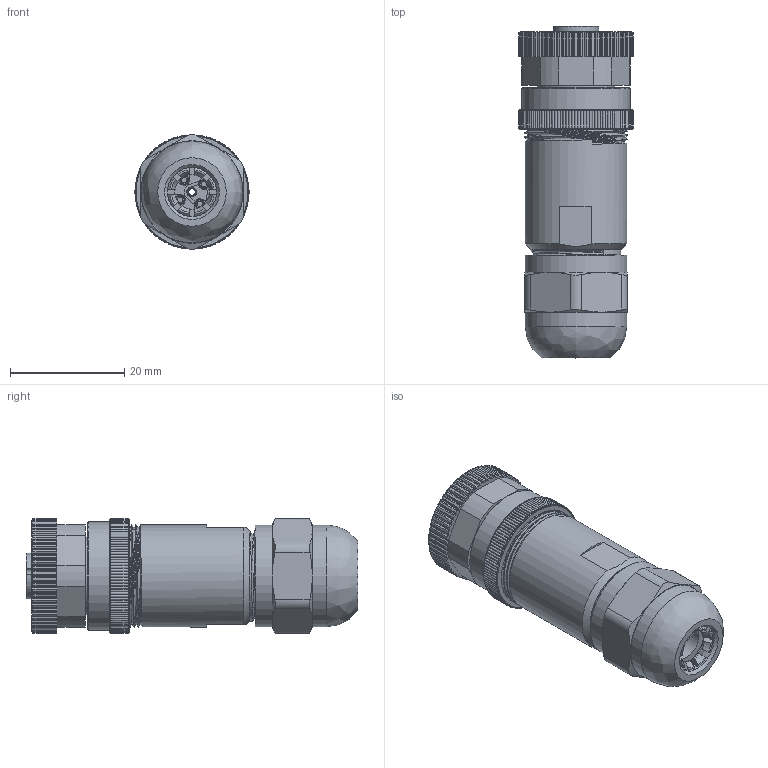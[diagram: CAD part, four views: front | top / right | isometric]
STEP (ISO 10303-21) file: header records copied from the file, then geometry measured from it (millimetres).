
FILE_DESCRIPTION(/* description */ (''),/* implementation_level */ '2;1');
FILE_NAME(/* name */ 'M12-4FS.P-PG7_stp.stp',/* time_stamp */ '2024-09-04T17:09:55+08:00',/* author */ (''),/* organization */ (''),/* preprocessor_version */ 'ST-DEVELOPER v16.7',/* originating_system */ 'SIEMENS PLM Software NX 12.0',/* authorisation */ '');
FILE_SCHEMA (('AUTOMOTIVE_DESIGN { 1 0 10303 214 3 1 1 1 }'));
Products named in the file (1): lyj7CECB1C4a6ox
Bounding box: 20 x 58.2 x 20.16 mm (x, y, z)
Volume: 8454 mm3; surface area: 12398.4 mm2
Topology: 1 solids, 9 shells, 1345 faces, 3222 edges, 1943 vertices
Faces by surface type: cylinder 534, plane 391, cone 361, extrusion 25, torus 20, bspline 14
Full cylindrical faces by diameter (mm): 1 x12, 1.2 x5, 1.3 x8, 1.4 x4, 1.6 x17, 2 x4, 6.2 x1, 8 x1, 8.3 x1, 8.5 x1, 8.6 x2, 9.2 x1, 9.5 x1, 10 x1, 10.2 x1, 10.7 x1, 10.8 x1, 11.1 x7, 11.3 x1, 12.7 x1, 13.2 x3, 13.6 x1, 13.8 x1, 13.9 x1, 14.4 x1, 14.8 x11, 15.8 x2, 16.4 x1, 16.7 x1, 17 x1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
Entity records: 54412 total; most frequent: CARTESIAN_POINT 25252, DIRECTION 6111, ORIENTED_EDGE 5924, EDGE_CURVE 2962, AXIS2_PLACEMENT_3D 2473, VERTEX_POINT 1824, EDGE_LOOP 1516, ADVANCED_FACE 1316
